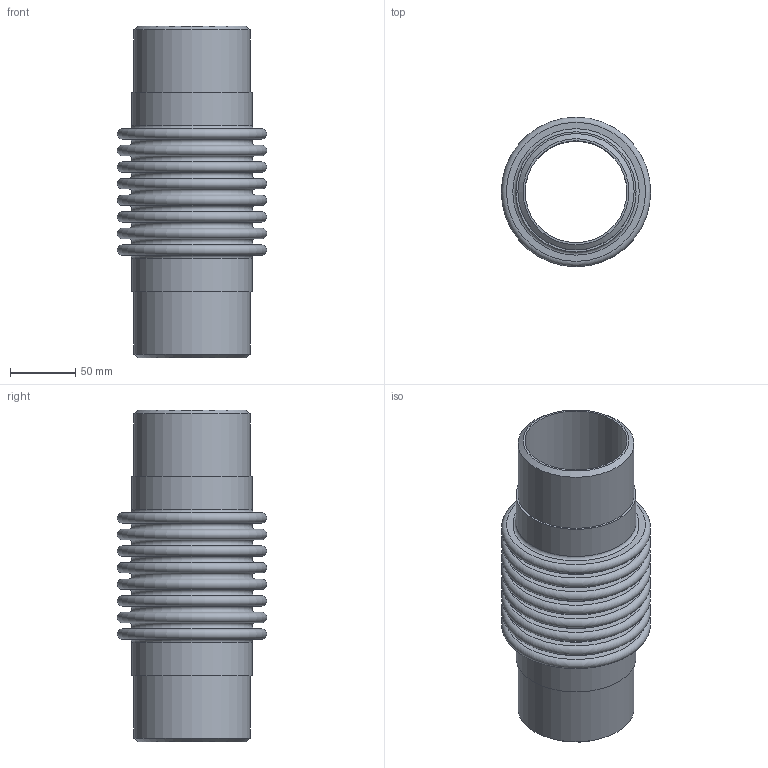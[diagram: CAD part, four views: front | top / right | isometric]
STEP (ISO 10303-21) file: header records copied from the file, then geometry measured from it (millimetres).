
FILE_DESCRIPTION(/* description */ ('EXPANSION JOINT,SINGLE, WELD ENDS,4 INCH NOMINAL'),/* implementation_level */ '2;1');
FILE_NAME(/* name */ 'US-3-300S- WELD-ENDS.stp',/* time_stamp */ '2026-07-28T10:26:34-05:00',/* author */ ('jorgef'),/* organization */ (''),/* preprocessor_version */ 'ST-DEVELOPER v20.1',/* originating_system */ 'Autodesk Inventor 2026',/* authorisation */ '');
FILE_SCHEMA (('AUTOMOTIVE_DESIGN { 1 0 10303 214 3 1 1 }'));
Length unit declared in the file: inch
Products named in the file (3): SINGLE STOCK  BELLOW WELDED ENDS  3 - 300 PSIG; STOCK BELLOW - US-3-8- 300S; PIPE- 3 -300 PSIG
Assembly tree (3 placements, depth 2):
  SINGLE STOCK  BELLOW WELDED ENDS  3 - 300 PSIG
    STOCK BELLOW - US-3-8- 300S
    PIPE- 3 -300 PSIG  x2
Bounding box: 114.3 x 114.3 x 254 mm (x, y, z)
Volume: 353132 mm3; surface area: 267127.2 mm2
Topology: 5 solids, 5 shells, 86 faces, 132 edges, 89 vertices
Faces by surface type: plane 42, torus 34, cylinder 8, cone 2
Full cylindrical faces by diameter (mm): 77.927 x2, 88.9 x4, 91.948 x2
Entity records: 2033 total; most frequent: DIRECTION 413, CARTESIAN_POINT 293, ORIENTED_EDGE 246, AXIS2_PLACEMENT_3D 203, EDGE_CURVE 123, EDGE_LOOP 121, CIRCLE 116, VERTEX_POINT 82
